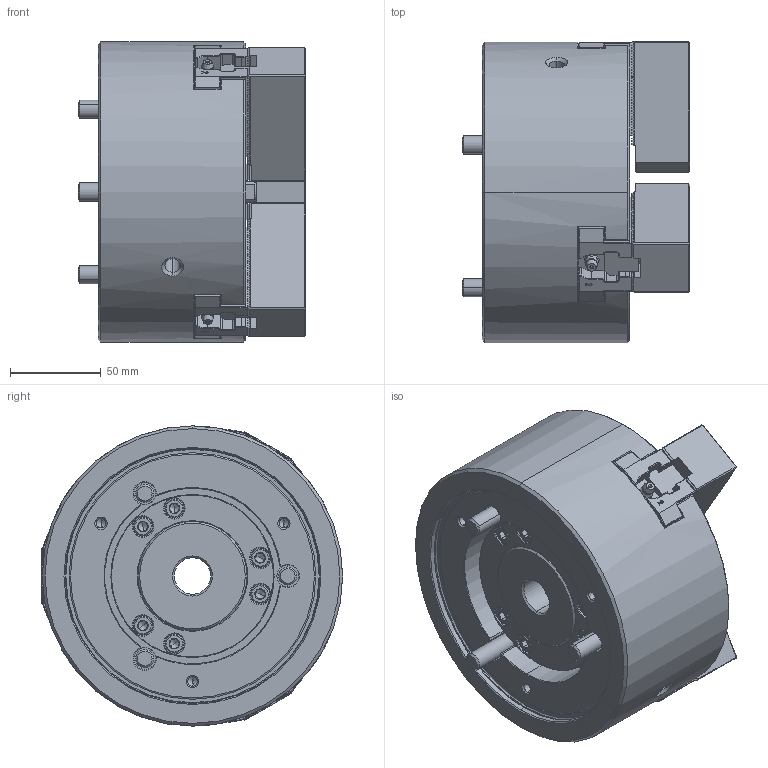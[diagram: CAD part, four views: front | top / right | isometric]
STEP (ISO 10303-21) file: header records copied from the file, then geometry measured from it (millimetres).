
FILE_DESCRIPTION (( 'STEP AP203' ), '1' );
FILE_NAME ('B-206M_HUL.STEP', '2025-09-05T09:50:45', ( '' ), ( '' ), 'SwSTEP 2.0', 'SolidWorks 2022', '' );
FILE_SCHEMA (( 'CONFIG_CONTROL_DESIGN' ));
Length unit declared in the file: millimetre
Products named in the file (9): Copy of DEV-B-206M-Tナット^DEV-B-206M-クミタテ; Copy of DEV-B-206M-ドローナット^DEV-B-206M-クミタテ_ねじ切りなし; Copy of DEV-B-206M-ソフトジョー^DEV-B-206M-クミタテ_デフォルト; B-206M_HUL; Copy of DEV-B-206M-Bアナツキボタン M5x10^DEV-B-206M-クミタテ; Copy of DEV-B-206M-Bアナツキ M10x80^DEV-B-206M-クミタテ; Copy of DEV-B-206M-Bアナツキ M10x25^DEV-B-206M-クミタテ; Part10^DEV-B-206M-クミタテ; Copy of DEV-B-206M-カバー^DEV-B-206M-クミタテ
Assembly tree (21 placements, depth 2):
  B-206M_HUL
    Copy of DEV-B-206M-Bアナツキ M10x80^DEV-B-206M-クミタテ  x3
    Copy of DEV-B-206M-Bアナツキ M10x25^DEV-B-206M-クミタテ  x6
    Copy of DEV-B-206M-Bアナツキボタン M5x10^DEV-B-206M-クミタテ  x3
    Copy of DEV-B-206M-ドローナット^DEV-B-206M-クミタテ_ねじ切りなし
    Copy of DEV-B-206M-カバー^DEV-B-206M-クミタテ
    Copy of DEV-B-206M-ソフトジョー^DEV-B-206M-クミタテ_デフォルト  x3
    Copy of DEV-B-206M-Tナット^DEV-B-206M-クミタテ  x3
    Part10^DEV-B-206M-クミタテ
Bounding box: 125.2 x 165.52 x 165 mm (x, y, z)
Volume: 1645046.6 mm3; surface area: 233342.5 mm2
Topology: 21 solids, 27 shells, 3559 faces, 9843 edges, 6385 vertices
Faces by surface type: plane 2134, cylinder 842, cone 368, bspline 142, torus 66, sphere 7
Entity records: 83965 total; most frequent: CARTESIAN_POINT 22525, ORIENTED_EDGE 13324, DIRECTION 11406, EDGE_CURVE 6662, VECTOR 4672, LINE 4672, VERTEX_POINT 4332, AXIS2_PLACEMENT_3D 3367
